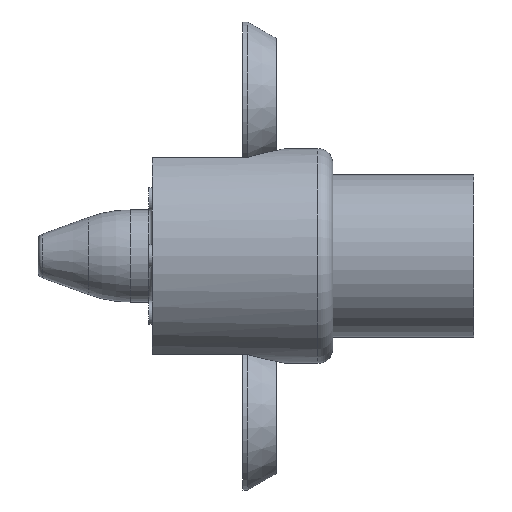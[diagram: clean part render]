
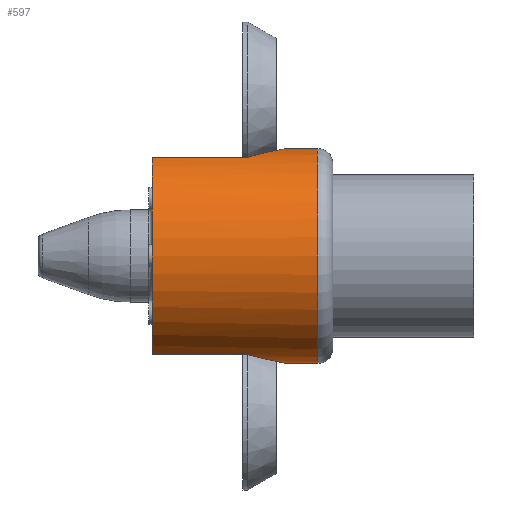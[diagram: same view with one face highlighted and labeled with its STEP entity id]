
A CAD part, left-side view. The second image highlights one B-rep face of the part: STEP entity #597.
In plain terms, the highlighted cylindrical face has radius 11.113 mm (diameter 22.225 mm), a partial arc.
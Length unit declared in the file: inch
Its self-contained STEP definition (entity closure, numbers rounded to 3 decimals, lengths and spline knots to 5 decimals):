
#5 = VERTEX_POINT ( 'NONE', #1555 ) ;
#16 = CARTESIAN_POINT ( 'NONE',  ( -0.15243, 0.31323, -0.41027 ) ) ;
#34 = VERTEX_POINT ( 'NONE', #72 ) ;
#72 = CARTESIAN_POINT ( 'NONE',  ( -0.17621, 0.735, -0.40044 ) ) ;
#78 = EDGE_CURVE ( 'NONE', #34, #108, #759, .T. ) ;
#81 = CARTESIAN_POINT ( 'NONE',  ( 0., 0.735, -0.4375 ) ) ;
#108 = VERTEX_POINT ( 'NONE', #1005 ) ;
#141 = CARTESIAN_POINT ( 'NONE',  ( -0.04001, 0.19848, 0.43577 ) ) ;
#156 = EDGE_CURVE ( 'NONE', #108, #1364, #503, .T. ) ;
#201 = ORIENTED_EDGE ( 'NONE', *, *, #446, .T. ) ;
#249 = CARTESIAN_POINT ( 'NONE',  ( -0.17621, 0.57266, -0.40044 ) ) ;
#269 = CARTESIAN_POINT ( 'NONE',  ( -0.02054, 0.19182, -0.43705 ) ) ;
#279 = CARTESIAN_POINT ( 'NONE',  ( -0.07424, 0.22136, -0.43122 ) ) ;
#295 = CARTESIAN_POINT ( 'NONE',  ( -0.04892, 0.20331, 0.43484 ) ) ;
#309 = DIRECTION ( 'NONE',  ( 0., -1., 0. ) ) ;
#319 = CARTESIAN_POINT ( 'NONE',  ( -0.17406, 0.34703, -0.40138 ) ) ;
#326 = CARTESIAN_POINT ( 'NONE',  ( 0., 0.06, -0.4375 ) ) ;
#332 = ORIENTED_EDGE ( 'NONE', *, *, #351, .T. ) ;
#351 = EDGE_CURVE ( 'NONE', #1166, #1303, #783, .T. ) ;
#355 = VECTOR ( 'NONE', #1427, 39.37008 ) ;
#369 = B_SPLINE_CURVE_WITH_KNOTS ( 'NONE', 3,
 ( #732, #1913, #1158, #269, #428, #1619, #1455, #876, #279, #1915, #1032, #1314, #436, #16, #1655, #319 ),
 .UNSPECIFIED., .F., .F.,
 ( 4, 2, 2, 2, 2, 2, 2, 4 ),
 ( 0.00636, 0.00675, 0.00714, 0.00792, 0.0087, 0.00949, 0.01105, 0.01261 ),
 .UNSPECIFIED. ) ;
#380 = ORIENTED_EDGE ( 'NONE', *, *, #387, .F. ) ;
#387 = EDGE_CURVE ( 'NONE', #5, #787, #414, .T. ) ;
#403 = DIRECTION ( 'NONE',  ( 0., 1., 0. ) ) ;
#408 = DIRECTION ( 'NONE',  ( 0., 1., 0. ) ) ;
#414 = B_SPLINE_CURVE_WITH_KNOTS ( 'NONE', 3,
 ( #1483, #1318, #464, #450, #1629, #1477, #888, #1337, #587, #295, #141, #456, #1178, #749, #608, #1786 ),
 .UNSPECIFIED., .F., .F.,
 ( 4, 2, 2, 2, 2, 2, 2, 4 ),
 ( 0.00011, 0.00167, 0.00323, 0.00401, 0.0048, 0.00558, 0.00597, 0.00636 ),
 .UNSPECIFIED. ) ;
#428 = CARTESIAN_POINT ( 'NONE',  ( -0.02551, 0.19321, -0.43678 ) ) ;
#434 = CARTESIAN_POINT ( 'NONE',  ( -0.17621, 0.35185, 0.40044 ) ) ;
#436 = CARTESIAN_POINT ( 'NONE',  ( -0.12896, 0.28053, -0.41824 ) ) ;
#446 = EDGE_CURVE ( 'NONE', #1560, #928, #1255, .T. ) ;
#450 = CARTESIAN_POINT ( 'NONE',  ( -0.12897, 0.28055, 0.41824 ) ) ;
#456 = CARTESIAN_POINT ( 'NONE',  ( -0.02551, 0.19322, 0.43678 ) ) ;
#464 = CARTESIAN_POINT ( 'NONE',  ( -0.15244, 0.31324, 0.41027 ) ) ;
#497 = EDGE_CURVE ( 'NONE', #1527, #928, #369, .T. ) ;
#503 = LINE ( 'NONE', #1248, #355 ) ;
#508 = EDGE_LOOP ( 'NONE', ( #807, #380, #817, #763, #1683, #514, #201, #600, #1741, #332 ) ) ;
#514 = ORIENTED_EDGE ( 'NONE', *, *, #800, .F. ) ;
#531 = CARTESIAN_POINT ( 'NONE',  ( -0.17621, 0.35453, 0.40044 ) ) ;
#537 = DIRECTION ( 'NONE',  ( 0., -1., 0. ) ) ;
#544 = VECTOR ( 'NONE', #537, 39.37008 ) ;
#587 = CARTESIAN_POINT ( 'NONE',  ( -0.06583, 0.21456, 0.4326 ) ) ;
#597 = ADVANCED_FACE ( 'NONE', ( #982 ), #1885, .T. ) ;
#600 = ORIENTED_EDGE ( 'NONE', *, *, #497, .F. ) ;
#608 = CARTESIAN_POINT ( 'NONE',  ( -0.00519, 0.18943, 0.4375 ) ) ;
#723 = DIRECTION ( 'NONE',  ( 0., 0., 1. ) ) ;
#732 = CARTESIAN_POINT ( 'NONE',  ( 0., 0.18943, -0.4375 ) ) ;
#734 = CARTESIAN_POINT ( 'NONE',  ( -0.17406, 0.34703, 0.40138 ) ) ;
#749 = CARTESIAN_POINT ( 'NONE',  ( -0.01031, 0.18992, 0.43741 ) ) ;
#759 = CIRCLE ( 'NONE', #997, 0.4375 ) ;
#763 = ORIENTED_EDGE ( 'NONE', *, *, #156, .F. ) ;
#783 = CIRCLE ( 'NONE', #1529, 0.4375 ) ;
#787 = VERTEX_POINT ( 'NONE', #1559 ) ;
#800 = EDGE_CURVE ( 'NONE', #1560, #34, #1175, .T. ) ;
#807 = ORIENTED_EDGE ( 'NONE', *, *, #1354, .F. ) ;
#817 = ORIENTED_EDGE ( 'NONE', *, *, #1045, .T. ) ;
#832 = CARTESIAN_POINT ( 'NONE',  ( 0., 0.735, 0.4375 ) ) ;
#873 = CARTESIAN_POINT ( 'NONE',  ( 0., 0.06, 0.4375 ) ) ;
#876 = CARTESIAN_POINT ( 'NONE',  ( -0.0662, 0.21484, -0.43255 ) ) ;
#882 = DIRECTION ( 'NONE',  ( 0., 0., 1. ) ) ;
#888 = CARTESIAN_POINT ( 'NONE',  ( -0.08892, 0.23473, 0.42844 ) ) ;
#928 = VERTEX_POINT ( 'NONE', #1173 ) ;
#982 = FACE_OUTER_BOUND ( 'NONE', #508, .T. ) ;
#997 = AXIS2_PLACEMENT_3D ( 'NONE', #1022, #1293, #723 ) ;
#1005 = CARTESIAN_POINT ( 'NONE',  ( -0.17621, 0.735, 0.40044 ) ) ;
#1022 = CARTESIAN_POINT ( 'NONE',  ( 0., 0.735, 0. ) ) ;
#1032 = CARTESIAN_POINT ( 'NONE',  ( -0.09632, 0.24228, -0.42682 ) ) ;
#1045 = EDGE_CURVE ( 'NONE', #5, #1364, #1395, .T. ) ;
#1063 = CARTESIAN_POINT ( 'NONE',  ( -0.17621, 0.35185, -0.40044 ) ) ;
#1089 = CARTESIAN_POINT ( 'NONE',  ( 0., 0.18943, -0.4375 ) ) ;
#1158 = CARTESIAN_POINT ( 'NONE',  ( -0.01041, 0.18993, -0.43741 ) ) ;
#1159 = CARTESIAN_POINT ( 'NONE',  ( -0.17544, 0.34925, 0.40079 ) ) ;
#1166 = VERTEX_POINT ( 'NONE', #326 ) ;
#1173 = CARTESIAN_POINT ( 'NONE',  ( -0.17406, 0.34703, -0.40138 ) ) ;
#1175 = LINE ( 'NONE', #249, #1676 ) ;
#1178 = CARTESIAN_POINT ( 'NONE',  ( -0.02045, 0.1918, 0.43705 ) ) ;
#1183 = CARTESIAN_POINT ( 'NONE',  ( -0.17621, 0.35453, 0.40044 ) ) ;
#1248 = CARTESIAN_POINT ( 'NONE',  ( -0.17621, 0.57266, 0.40044 ) ) ;
#1255 = B_SPLINE_CURVE_WITH_KNOTS ( 'NONE', 3,
 ( #1644, #1063, #1495, #1800 ),
 .UNSPECIFIED., .F., .F.,
 ( 4, 4 ),
 ( 0., 0.0002 ),
 .UNSPECIFIED. ) ;
#1293 = DIRECTION ( 'NONE',  ( 0., 1., 0. ) ) ;
#1303 = VERTEX_POINT ( 'NONE', #873 ) ;
#1314 = CARTESIAN_POINT ( 'NONE',  ( -0.1166, 0.26467, -0.42191 ) ) ;
#1318 = CARTESIAN_POINT ( 'NONE',  ( -0.16348, 0.33001, 0.40597 ) ) ;
#1337 = CARTESIAN_POINT ( 'NONE',  ( -0.07384, 0.22103, 0.43129 ) ) ;
#1338 = LINE ( 'NONE', #832, #544 ) ;
#1346 = DIRECTION ( 'NONE',  ( 0., 0., -1. ) ) ;
#1354 = EDGE_CURVE ( 'NONE', #787, #1303, #1338, .T. ) ;
#1364 = VERTEX_POINT ( 'NONE', #531 ) ;
#1395 = B_SPLINE_CURVE_WITH_KNOTS ( 'NONE', 3,
 ( #734, #1159, #434, #1183 ),
 .UNSPECIFIED., .F., .F.,
 ( 4, 4 ),
 ( 0., 0.0002 ),
 .UNSPECIFIED. ) ;
#1426 = DIRECTION ( 'NONE',  ( 0., -1., 0. ) ) ;
#1427 = DIRECTION ( 'NONE',  ( 0., -1., 0. ) ) ;
#1455 = CARTESIAN_POINT ( 'NONE',  ( -0.04918, 0.20345, -0.43481 ) ) ;
#1477 = CARTESIAN_POINT ( 'NONE',  ( -0.09604, 0.24199, 0.42689 ) ) ;
#1483 = CARTESIAN_POINT ( 'NONE',  ( -0.17406, 0.34703, 0.40138 ) ) ;
#1495 = CARTESIAN_POINT ( 'NONE',  ( -0.17544, 0.34925, -0.40079 ) ) ;
#1510 = AXIS2_PLACEMENT_3D ( 'NONE', #1784, #309, #1346 ) ;
#1527 = VERTEX_POINT ( 'NONE', #1089 ) ;
#1529 = AXIS2_PLACEMENT_3D ( 'NONE', #1766, #408, #882 ) ;
#1555 = CARTESIAN_POINT ( 'NONE',  ( -0.17406, 0.34703, 0.40138 ) ) ;
#1558 = LINE ( 'NONE', #81, #1667 ) ;
#1559 = CARTESIAN_POINT ( 'NONE',  ( 0., 0.18943, 0.4375 ) ) ;
#1560 = VERTEX_POINT ( 'NONE', #1856 ) ;
#1619 = CARTESIAN_POINT ( 'NONE',  ( -0.04015, 0.19853, -0.43576 ) ) ;
#1629 = CARTESIAN_POINT ( 'NONE',  ( -0.11654, 0.26457, 0.42193 ) ) ;
#1644 = CARTESIAN_POINT ( 'NONE',  ( -0.17621, 0.35453, -0.40044 ) ) ;
#1655 = CARTESIAN_POINT ( 'NONE',  ( -0.16349, 0.33003, -0.40597 ) ) ;
#1667 = VECTOR ( 'NONE', #1426, 39.37008 ) ;
#1676 = VECTOR ( 'NONE', #403, 39.37008 ) ;
#1683 = ORIENTED_EDGE ( 'NONE', *, *, #78, .F. ) ;
#1718 = EDGE_CURVE ( 'NONE', #1527, #1166, #1558, .T. ) ;
#1741 = ORIENTED_EDGE ( 'NONE', *, *, #1718, .T. ) ;
#1766 = CARTESIAN_POINT ( 'NONE',  ( 0., 0.06, 0. ) ) ;
#1784 = CARTESIAN_POINT ( 'NONE',  ( 0., 0.735, 0. ) ) ;
#1786 = CARTESIAN_POINT ( 'NONE',  ( 0., 0.18943, 0.4375 ) ) ;
#1800 = CARTESIAN_POINT ( 'NONE',  ( -0.17406, 0.34703, -0.40138 ) ) ;
#1856 = CARTESIAN_POINT ( 'NONE',  ( -0.17621, 0.35453, -0.40044 ) ) ;
#1885 = CYLINDRICAL_SURFACE ( 'NONE', #1510, 0.4375 ) ;
#1913 = CARTESIAN_POINT ( 'NONE',  ( -0.00519, 0.18943, -0.4375 ) ) ;
#1915 = CARTESIAN_POINT ( 'NONE',  ( -0.08926, 0.23506, -0.42837 ) ) ;
